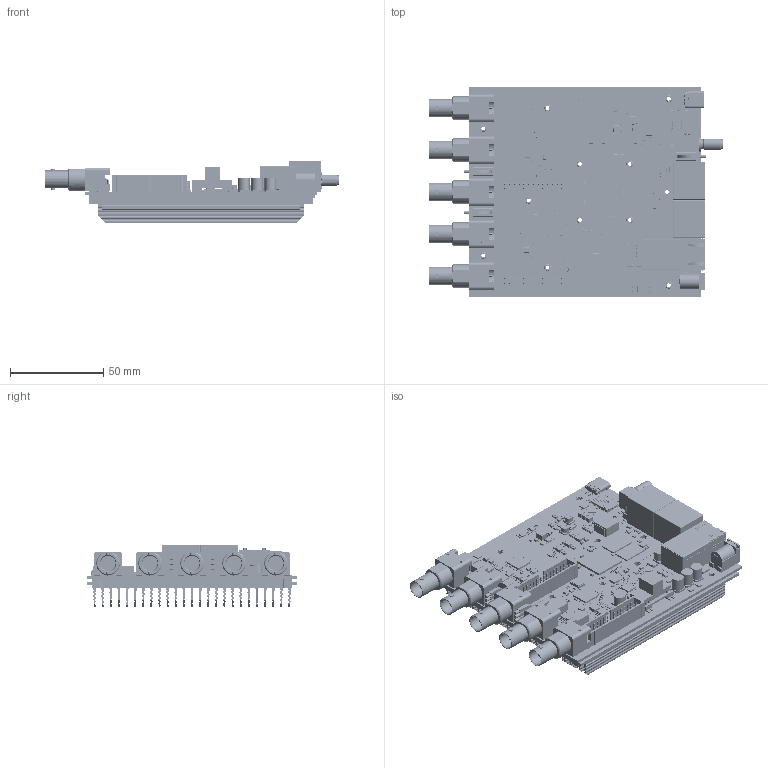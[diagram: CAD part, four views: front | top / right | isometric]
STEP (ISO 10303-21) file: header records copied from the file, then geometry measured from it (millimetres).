
FILE_DESCRIPTION(('Open CASCADE Model'),'2;1');
FILE_NAME('Open CASCADE Shape Model','2021-01-06T16:08:26',('Author'),( 'Open CASCADE'),'Open CASCADE STEP processor 6.8','Open CASCADE 6.8' ,'Unknown');
FILE_SCHEMA(('AUTOMOTIVE_DESIGN { 1 0 10303 214 1 1 1 1 }'));
Length unit declared in the file: millimetre
Products named in the file (1725): PCB; BoardSIGNAL250-12_V1r2; Open CASCADE STEP translator 6.8 1.1.1; R292SIGNAL250-12_V1r2; 5940193824; Extruded; 5940193584; D13SIGNAL250-12_V1r2; 5894590032; 5894589792; 5894589392; FB21SIGNAL250-12_V1r2; 6275414304; 6275414064; FB20SIGNAL250-12_V1r2; FB19SIGNAL250-12_V1r2; 6279610992; 6279610752; FB18SIGNAL250-12_V1r2; 13130560864; FB17SIGNAL250-12_V1r2; 6155765056; 6155764816; FB14SIGNAL250-12_V1r2; C397SIGNAL250-12_V1r2; 6500297968; Terminal; Open_CASCADE_STEP_translator_6.8_2.1.1; Open_CASCADE_STEP_translator_6.8_2.1.2; Mid_Body; Open_CASCADE_STEP_translator_6.8_2.2.1; D12SIGNAL250-12_V1r2; 6500295088; Body; Open_CASCADE_STEP_translator_6.8_9.1.1; Leader; 6279623232; Cylinder; U51SIGNAL250-12_V1r2; 6500302288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
Assembly tree (3667 placements, depth 5):
  PCB
    BoardSIGNAL250-12_V1r2
      Open CASCADE STEP translator 6.8 1.1.1
    R292SIGNAL250-12_V1r2
      5940193824
        Extruded
      5940193584
        Extruded
    D13SIGNAL250-12_V1r2
      5894590032
        Extruded
      5894589792  x2
        Extruded
      5894589392
        Extruded
    FB21SIGNAL250-12_V1r2
      6275414304
        Extruded
      6275414064  x2
        Extruded
    FB20SIGNAL250-12_V1r2
      6275414304
        Extruded
      6275414064  x2
        Extruded
    FB19SIGNAL250-12_V1r2
      6279610992
        Extruded
      6279610752  x2
        Extruded
    FB18SIGNAL250-12_V1r2
      6279610992
        Extruded
      13130560864
        Extruded
      6279610752
        Extruded
    FB17SIGNAL250-12_V1r2
      6155765056
        Extruded
      6155764816  x2
        Extruded
    FB14SIGNAL250-12_V1r2
      6155765056
        Extruded
      6155764816  x2
        Extruded
    C397SIGNAL250-12_V1r2
      6500297968
        Terminal
          Open_CASCADE_STEP_translator_6.8_2.1.1
          Open_CASCADE_STEP_translator_6.8_2.1.2
        Mid_Body
          Open_CASCADE_STEP_translator_6.8_2.2.1
    D12SIGNAL250-12_V1r2
      6500295088
        Body
          Open_CASCADE_STEP_translator_6.8_9.1.1
        Leader  x6
      6279623232
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Bounding box: 157.32 x 112.6 x 33.55 mm (x, y, z)
Volume: 158312.2 mm3; surface area: 172068.6 mm2
Topology: 3188 solids, 3241 shells, 47160 faces, 108411 edges, 64723 vertices
Faces by surface type: plane 31006, cylinder 11937, sphere 3302, bspline 290, cone 268, torus 263, extrusion 94
Full cylindrical faces by diameter (mm): 0.35 x14, 0.375 x10, 0.4 x11, 0.5 x17, 0.6 x9, 0.65 x1, 0.75 x14, 0.8 x12, 0.9 x36, 0.95 x8, 1 x53, 1.125 x1, 1.2 x1, 1.25 x1, 1.27 x1, 1.5 x40, 1.6 x2, 1.7 x4, 1.95 x12, 2 x10, 2.013 x12, 2.2 x2, 2.7 x12, 3.2 x2, 3.5 x12, 3.7 x12, 4.6 x1, 5.1 x12, 5.34 x2, 6.3 x6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
Entity records: 552289 total; most frequent: CARTESIAN_POINT 112640, DIRECTION 77829, ORIENTED_EDGE 73120, EDGE_CURVE 36565, VECTOR 27527, LINE 27478, AXIS2_PLACEMENT_3D 25151, VERTEX_POINT 23274
